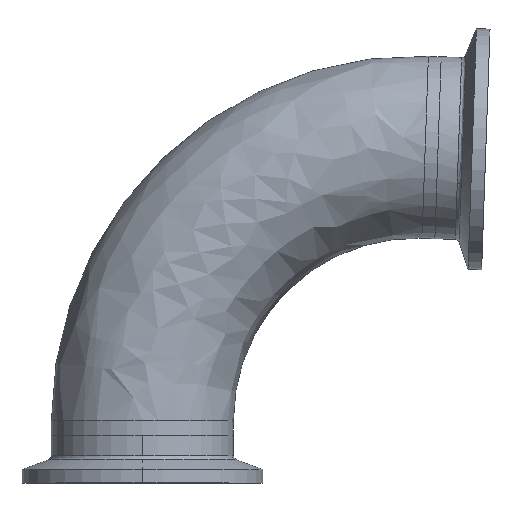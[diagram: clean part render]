
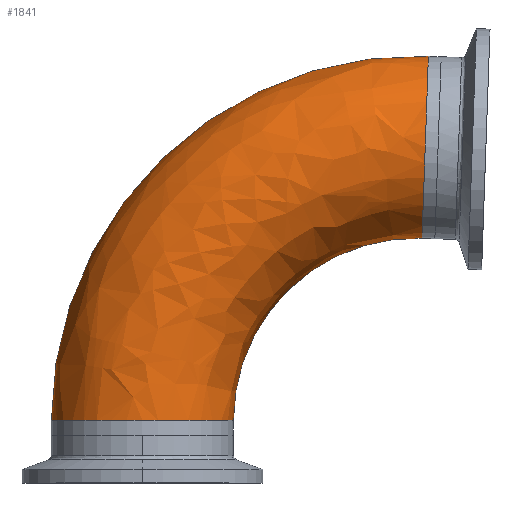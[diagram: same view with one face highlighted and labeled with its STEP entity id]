
A CAD part, top view. The second image highlights one B-rep face of the part: STEP entity #1841.
In plain terms, the highlighted free-form (B-spline) face has degree [3, 3] with [4, 4] control points.
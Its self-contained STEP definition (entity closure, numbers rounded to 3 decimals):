
#43 = CARTESIAN_POINT ( 'NONE',  ( -19.05, 49.04, 38.1 ) ) ;
#110 = VERTEX_POINT ( 'NONE', #1608 ) ;
#229 = CIRCLE ( 'NONE', #1258, 19.05 ) ;
#257 = CARTESIAN_POINT ( 'NONE',  ( 0., 3.128, 0. ) ) ;
#308 = CARTESIAN_POINT ( 'NONE',  ( -19.05, 49.04, 0. ) ) ;
#334 = EDGE_CURVE ( 'NONE', #2552, #3166, #2770, .T. ) ;
#386 = DIRECTION ( 'NONE',  ( 0., 0., -1. ) ) ;
#469 = CARTESIAN_POINT ( 'NONE',  ( 19.05, 26.099, 0. ) ) ;
#495 = CARTESIAN_POINT ( 'NONE',  ( 58.531, 41.255, 38.1 ) ) ;
#517 = CARTESIAN_POINT ( 'NONE',  ( 59.196, 60.293, 0. ) ) ;
#622 = CARTESIAN_POINT ( 'NONE',  ( 35.574, 42.056, 38.1 ) ) ;
#646 = CARTESIAN_POINT ( 'NONE',  ( 58.531, 41.255, 0. ) ) ;
#772 = DIRECTION ( 'NONE',  ( 0.035, 0.999, 0. ) ) ;
#1082 = CIRCLE ( 'NONE', #1088, 76.25 ) ;
#1088 = AXIS2_PLACEMENT_3D ( 'NONE', #1909, #386, #2170 ) ;
#1189 = EDGE_CURVE ( 'NONE', #3166, #110, #2137, .T. ) ;
#1227 = DIRECTION ( 'NONE',  ( 0., 1., 0. ) ) ;
#1250 = DIRECTION ( 'NONE',  ( -1., 0., 0. ) ) ;
#1258 = AXIS2_PLACEMENT_3D ( 'NONE', #517, #2301, #772 ) ;
#1375 = CARTESIAN_POINT ( 'NONE',  ( 19.05, 26.099, 38.1 ) ) ;
#1467 = CARTESIAN_POINT ( 'NONE',  ( 19.05, 3.128, 38.1 ) ) ;
#1608 = CARTESIAN_POINT ( 'NONE',  ( 58.531, 41.255, 0. ) ) ;
#1755 = ORIENTED_EDGE ( 'NONE', *, *, #2633, .F. ) ;
#1828 = DIRECTION ( 'NONE',  ( -1., 0., 0. ) ) ;
#1841 = ADVANCED_FACE ( 'NONE', ( #2364 ), #3017, .T. ) ;
#1909 = CARTESIAN_POINT ( 'NONE',  ( 57.2, 3.128, 0. ) ) ;
#1949 = CARTESIAN_POINT ( 'NONE',  ( 13.977, 80.934, 0. ) ) ;
#1985 = DIRECTION ( 'NONE',  ( 0., 0., -1. ) ) ;
#2010 = CARTESIAN_POINT ( 'NONE',  ( 57.2, 3.128, 0. ) ) ;
#2052 = VERTEX_POINT ( 'NONE', #3024 ) ;
#2089 = ORIENTED_EDGE ( 'NONE', *, *, #2735, .T. ) ;
#2105 = ORIENTED_EDGE ( 'NONE', *, *, #1189, .T. ) ;
#2131 = CARTESIAN_POINT ( 'NONE',  ( -19.05, 3.128, 38.1 ) ) ;
#2137 = CIRCLE ( 'NONE', #2933, 38.15 ) ;
#2170 = DIRECTION ( 'NONE',  ( -1., 0., 0. ) ) ;
#2290 = CARTESIAN_POINT ( 'NONE',  ( 19.05, 3.128, 0. ) ) ;
#2301 = DIRECTION ( 'NONE',  ( -0.999, 0.035, 0. ) ) ;
#2364 = FACE_OUTER_BOUND ( 'NONE', #2936, .T. ) ;
#2402 = CARTESIAN_POINT ( 'NONE',  ( 59.861, 79.331, 0. ) ) ;
#2435 = AXIS2_PLACEMENT_3D ( 'NONE', #257, #1227, #1250 ) ;
#2447 = CARTESIAN_POINT ( 'NONE',  ( 13.977, 80.934, 38.1 ) ) ;
#2460 = ORIENTED_EDGE ( 'NONE', *, *, #334, .T. ) ;
#2479 = CARTESIAN_POINT ( 'NONE',  ( 59.861, 79.331, 38.1 ) ) ;
#2552 = VERTEX_POINT ( 'NONE', #2609 ) ;
#2609 = CARTESIAN_POINT ( 'NONE',  ( -19.05, 3.128, 0. ) ) ;
#2633 = EDGE_CURVE ( 'NONE', #2552, #2052, #1082, .T. ) ;
#2735 = EDGE_CURVE ( 'NONE', #110, #2052, #229, .T. ) ;
#2770 = CIRCLE ( 'NONE', #2435, 19.05 ) ;
#2824 = CARTESIAN_POINT ( 'NONE',  ( 19.05, 3.128, 0. ) ) ;
#2916 = CARTESIAN_POINT ( 'NONE',  ( -19.05, 3.128, 0. ) ) ;
#2933 = AXIS2_PLACEMENT_3D ( 'NONE', #2010, #1985, #1828 ) ;
#2936 = EDGE_LOOP ( 'NONE', ( #2460, #2105, #2089, #1755 ) ) ;
#3017 =( BOUNDED_SURFACE ( )  B_SPLINE_SURFACE ( 3, 3, ( 
 ( #2916, #308, #1949, #2402 ),
 ( #2131, #43, #2447, #2479 ),
 ( #1467, #1375, #622, #495 ),
 ( #2290, #469, #3273, #646 ) ),
 .UNSPECIFIED., .F., .F., .F. ) 
 B_SPLINE_SURFACE_WITH_KNOTS ( ( 4, 4 ),
 ( 4, 4 ),
 ( 0., 1. ),
 ( 0., 1. ),
 .UNSPECIFIED. ) 
 GEOMETRIC_REPRESENTATION_ITEM ( )  RATIONAL_B_SPLINE_SURFACE ( (
 ( 1., 0.796, 0.796, 1.),
 ( 0.333, 0.265, 0.265, 0.333),
 ( 0.333, 0.265, 0.265, 0.333),
 ( 1., 0.796, 0.796, 1.) ) ) 
 REPRESENTATION_ITEM ( '' )  SURFACE ( )  );
#3024 = CARTESIAN_POINT ( 'NONE',  ( 59.861, 79.331, 0. ) ) ;
#3166 = VERTEX_POINT ( 'NONE', #2824 ) ;
#3273 = CARTESIAN_POINT ( 'NONE',  ( 35.574, 42.056, 0. ) ) ;
